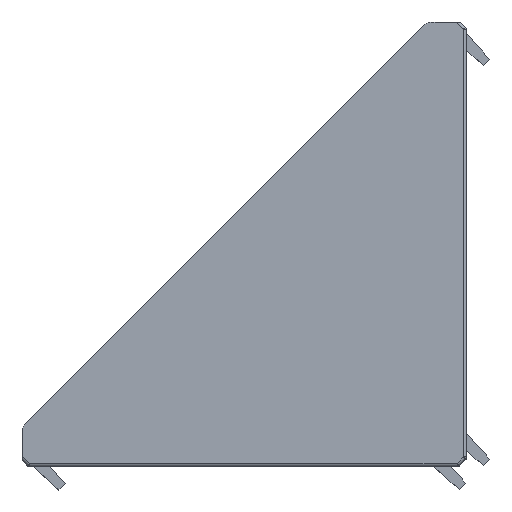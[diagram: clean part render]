
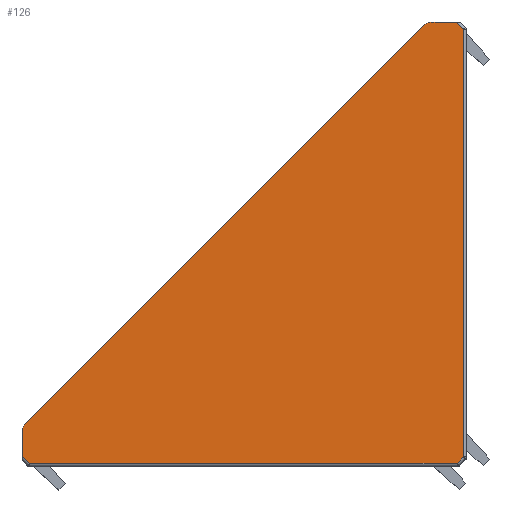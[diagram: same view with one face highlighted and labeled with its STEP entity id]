
A CAD part, top view. The second image highlights one B-rep face of the part: STEP entity #126.
In plain terms, the highlighted planar face has unit normal (0.012, -0.012, 1).
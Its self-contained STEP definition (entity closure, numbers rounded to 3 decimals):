
#126=ADVANCED_FACE('Fl_che2',(#919),#920,.T.);
#919=FACE_OUTER_BOUND('',#2879,.T.);
#920=PLANE('',#2880);
#2879=EDGE_LOOP('',(#9640,#9641,#9642,#9643,#9644,#9645,#9646,#9647,#9648,#9649));
#2880=AXIS2_PLACEMENT_3D('',#9650,#9651,#9652);
#9640=ORIENTED_EDGE('',*,*,#14239,.T.);
#9641=ORIENTED_EDGE('',*,*,#14240,.T.);
#9642=ORIENTED_EDGE('',*,*,#14241,.T.);
#9643=ORIENTED_EDGE('',*,*,#14242,.T.);
#9644=ORIENTED_EDGE('',*,*,#14243,.T.);
#9645=ORIENTED_EDGE('',*,*,#14235,.T.);
#9646=ORIENTED_EDGE('',*,*,#14218,.T.);
#9647=ORIENTED_EDGE('',*,*,#14185,.T.);
#9648=ORIENTED_EDGE('',*,*,#14222,.T.);
#9649=ORIENTED_EDGE('',*,*,#14225,.T.);
#9650=CARTESIAN_POINT('',(-7.317,75.414,37.0));
#9651=DIRECTION('',(0.012,-0.012,1.));
#9652=DIRECTION('',(-0.707,-0.707,0.0));
#14185=EDGE_CURVE('NONE',#16364,#16362,#16365,.T.);
#14218=EDGE_CURVE('NONE',#16419,#16364,#16420,.T.);
#14222=EDGE_CURVE('NONE',#16362,#16424,#16426,.T.);
#14225=EDGE_CURVE('NONE',#16424,#16430,#16432,.T.);
#14235=EDGE_CURVE('NONE',#16449,#16419,#16450,.T.);
#14239=EDGE_CURVE('NONE',#16430,#16455,#16456,.T.);
#14240=EDGE_CURVE('NONE',#16455,#16457,#16458,.T.);
#14241=EDGE_CURVE('NONE',#16457,#16459,#16460,.T.);
#14242=EDGE_CURVE('NONE',#16459,#15639,#16461,.T.);
#14243=EDGE_CURVE('NONE',#15639,#16449,#16462,.T.);
#15639=VERTEX_POINT('NONE',#18935);
#16362=VERTEX_POINT('NONE',#21163);
#16364=VERTEX_POINT('NONE',#21166);
#16365=LINE('',#21167,#21168);
#16419=VERTEX_POINT('NONE',#21275);
#16420=(B_SPLINE_CURVE(3,(#21277,#21278,#21279,#21280),.UNSPECIFIED.,.F.,.F.)B_SPLINE_CURVE_WITH_KNOTS((4,4),(2.356,3.142),.UNSPECIFIED.)RATIONAL_B_SPLINE_CURVE((1.0,0.949,0.949,1.0))BOUNDED_CURVE()REPRESENTATION_ITEM('')GEOMETRIC_REPRESENTATION_ITEM()CURVE());
#16424=VERTEX_POINT('NONE',#21301);
#16426=(B_SPLINE_CURVE(3,(#21305,#21306,#21307,#21308),.UNSPECIFIED.,.F.,.F.)B_SPLINE_CURVE_WITH_KNOTS((4,4),(3.142,3.927),.UNSPECIFIED.)RATIONAL_B_SPLINE_CURVE((1.0,0.949,0.949,1.0))BOUNDED_CURVE()REPRESENTATION_ITEM('')GEOMETRIC_REPRESENTATION_ITEM()CURVE());
#16430=VERTEX_POINT('NONE',#21319);
#16432=LINE('',#21331,#21332);
#16449=VERTEX_POINT('NONE',#21367);
#16450=LINE('',#21368,#21369);
#16455=VERTEX_POINT('NONE',#21395);
#16456=LINE('',#21396,#21397);
#16457=VERTEX_POINT('NONE',#21398);
#16458=LINE('',#21399,#21400);
#16459=VERTEX_POINT('NONE',#21401);
#16460=LINE('',#21402,#21403);
#16461=LINE('',#21404,#21405);
#16462=LINE('',#21406,#21407);
#18935=CARTESIAN_POINT('',(-0.494,74.74,36.907));
#21163=CARTESIAN_POINT('',(-75.414,7.317,37.0));
#21166=CARTESIAN_POINT('',(-7.317,75.414,37.0));
#21167=CARTESIAN_POINT('',(-7.317,75.414,37.0));
#21168=VECTOR('',#25780,1000.0);
#21275=CARTESIAN_POINT('',(-5.903,76.0,36.99));
#21277=CARTESIAN_POINT('',(-5.903,76.0,36.99));
#21278=CARTESIAN_POINT('',(-6.441,76.0,36.996));
#21279=CARTESIAN_POINT('',(-6.937,75.794,37.0));
#21280=CARTESIAN_POINT('',(-7.317,75.414,37.0));
#21301=CARTESIAN_POINT('',(-76.0,5.903,36.99));
#21305=CARTESIAN_POINT('',(-75.414,7.317,37.0));
#21306=CARTESIAN_POINT('',(-75.794,6.937,37.0));
#21307=CARTESIAN_POINT('',(-76.0,6.441,36.996));
#21308=CARTESIAN_POINT('',(-76.0,5.903,36.99));
#21319=CARTESIAN_POINT('',(-76.0,1.754,36.939));
#21331=CARTESIAN_POINT('',(-76.0,5.903,36.99));
#21332=VECTOR('',#25827,1000.0);
#21367=CARTESIAN_POINT('',(-1.754,76.0,36.939));
#21368=CARTESIAN_POINT('',(-1.048,76.0,36.93));
#21369=VECTOR('',#25836,1000.0);
#21395=CARTESIAN_POINT('',(-74.74,0.494,36.907));
#21396=CARTESIAN_POINT('',(-74.6,0.354,36.904));
#21397=VECTOR('',#25838,1000.0);
#21398=CARTESIAN_POINT('',(-1.615,0.494,36.005));
#21399=CARTESIAN_POINT('',(-1.414,0.494,36.002));
#21400=VECTOR('',#25839,1000.0);
#21401=CARTESIAN_POINT('',(-0.494,1.615,36.005));
#21402=CARTESIAN_POINT('',(-0.347,1.762,36.005));
#21403=VECTOR('',#25840,1000.0);
#21404=CARTESIAN_POINT('',(-0.494,74.246,36.901));
#21405=VECTOR('',#25841,1000.0);
#21406=CARTESIAN_POINT('',(-1.4,75.646,36.93));
#21407=VECTOR('',#25842,1000.0);
#25780=DIRECTION('',(-0.707,-0.707,0.0));
#25827=DIRECTION('',(0.,-1.,-0.012));
#25836=DIRECTION('',(-1.,0.0,0.012));
#25838=DIRECTION('',(0.707,-0.707,-0.017));
#25839=DIRECTION('',(1.,0.,-0.012));
#25840=DIRECTION('',(0.707,0.707,0.));
#25841=DIRECTION('',(0.,1.,0.012));
#25842=DIRECTION('',(-0.707,0.707,0.017));
